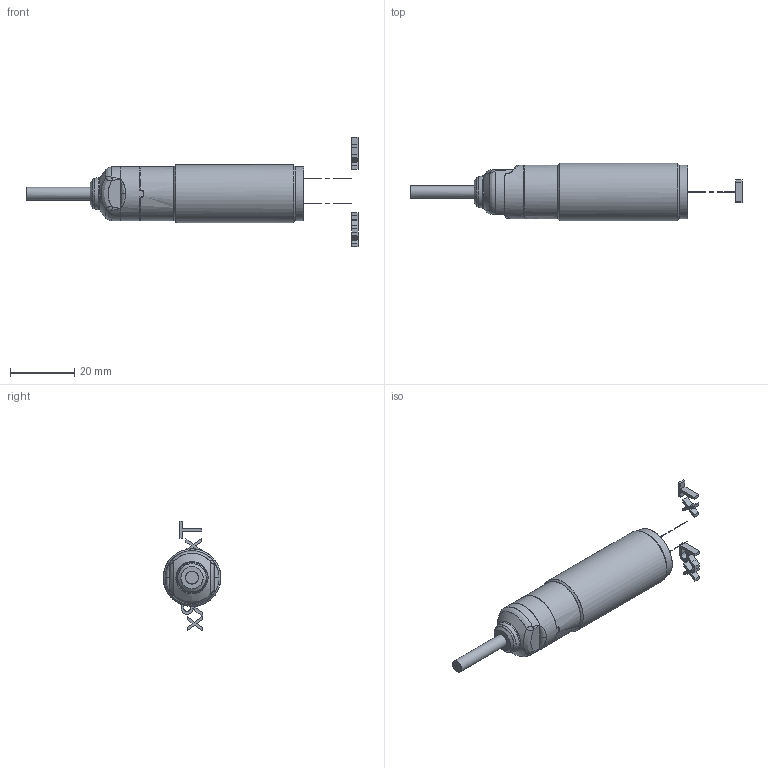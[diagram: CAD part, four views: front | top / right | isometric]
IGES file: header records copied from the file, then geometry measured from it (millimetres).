
Global section: file name: D:\TMP\DSD-0058.igs; preprocessor: I-DEAS 3D IGES Translator 11; date: 20060607.160032; units: millimetre
Bounding box: 103.63 x 17.99 x 34.32 mm (x, y, z)
Volume: 91.1 mm3; surface area: 8844.9 mm2
Topology: 8 solids, 8 shells, 181 faces, 810 edges, 726 vertices
Faces by surface type: bspline 181
